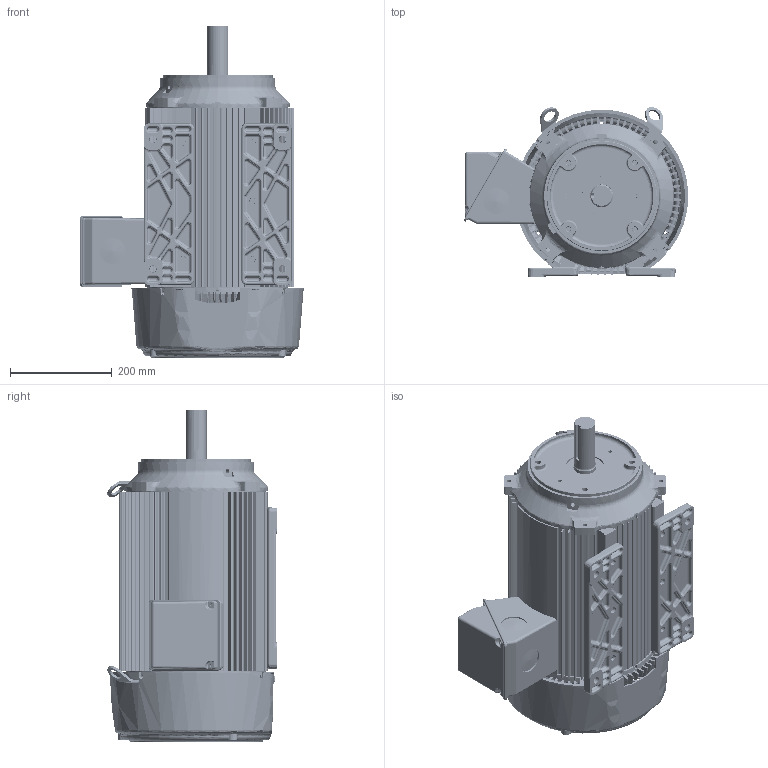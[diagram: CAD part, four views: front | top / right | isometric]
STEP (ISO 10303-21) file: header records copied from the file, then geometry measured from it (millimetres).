
FILE_DESCRIPTION((''),'2;1');
FILE_NAME('STD_CFACE_ASM','2014-07-01T',('EMD2341'),('Nidec Motor Corporation'),'PRO/ENGINEER BY PARAMETRIC TECHNOLOGY CORPORATION, 2013150','PRO/ENGINEER BY PARAMETRIC TECHNOLOGY CORPORATION, 2013150','');
FILE_SCHEMA(('CONFIG_CONTROL_DESIGN'));
Length unit declared in the file: inch
Products named in the file (16): 0375096_AF1; 0375099-BKT_AF0; 0360239_AF0; 0375600_ASM; 0364285; 0362104; 0370425-BKT_AF0; 0362224_AF1; 0370426_ASM; 0172877; 0417045; 0364282-OBB; 0364292; 0369733; 0362103; STD_CFACE_ASM
Assembly tree (16 placements, depth 3):
  STD_CFACE_ASM
    0375096_AF1
    0375600_ASM
      0375099-BKT_AF0
      0360239_AF0
    0364285
    0362104
    0370426_ASM
      0370425-BKT_AF0
      0362224_AF1
    0172877
    0417045
    0364282-OBB
    0364292
    0369733  x2
    0362103
Bounding box: 440.71 x 332.48 x 651.05 mm (x, y, z)
Volume: 7861289.3 mm3; surface area: 2563898.2 mm2
Topology: 16 solids, 16 shells, 5785 faces, 14396 edges, 8616 vertices
Faces by surface type: bspline 2051, plane 1358, cylinder 1203, cone 548, torus 418, sphere 187, extrusion 20
Entity records: 258756 total; most frequent: CARTESIAN_POINT 136757, ORIENTED_EDGE 28626, DIRECTION 20769, EDGE_CURVE 14313, VERTEX_POINT 8592, AXIS2_PLACEMENT_3D 8116, EDGE_LOOP 5999, FACE_OUTER_BOUND 5767
